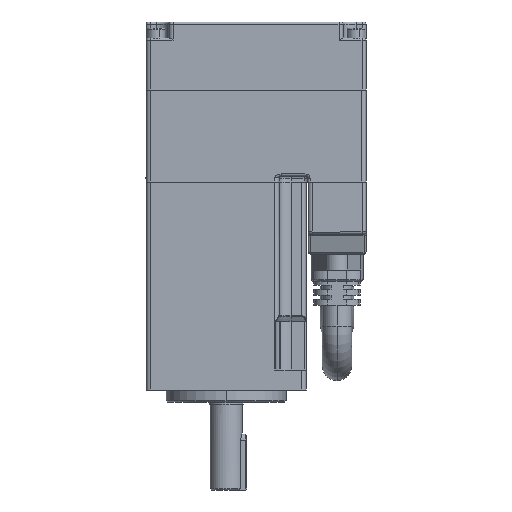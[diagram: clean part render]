
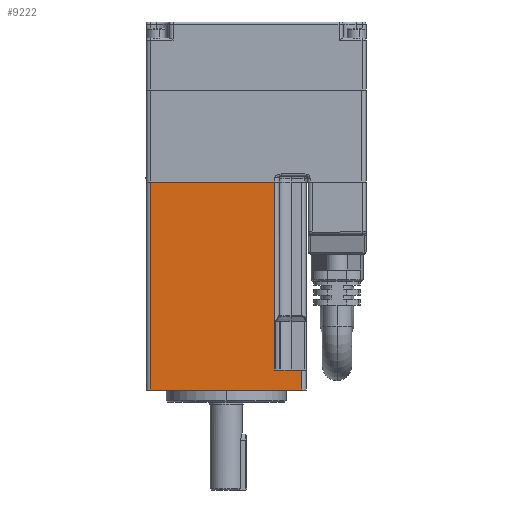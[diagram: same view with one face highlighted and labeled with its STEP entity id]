
A CAD part, left-side view. The second image highlights one B-rep face of the part: STEP entity #9222.
In plain terms, the highlighted planar face has unit normal (-1, 0, 0).
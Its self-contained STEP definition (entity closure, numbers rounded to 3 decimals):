
#7717=DIRECTION('',(0.,-1.,0.));
#7718=VECTOR('',#7717,37.8);
#7719=CARTESIAN_POINT('',(-20.,18.9,-5.));
#7720=LINE('',#7719,#7718);
#7721=DIRECTION('',(0.,-1.,0.));
#7722=VECTOR('',#7721,31.06);
#7723=CARTESIAN_POINT('',(-20.,18.9,47.));
#7724=LINE('',#7723,#7722);
#7749=DIRECTION('',(0.,-1.,0.));
#7750=VECTOR('',#7749,6.74);
#7751=CARTESIAN_POINT('',(-20.,-12.16,0.));
#7752=LINE('',#7751,#7750);
#7863=DIRECTION('',(0.,0.,-1.));
#7864=VECTOR('',#7863,12.034);
#7865=CARTESIAN_POINT('',(-20.,-12.16,12.034));
#7866=LINE('',#7865,#7864);
#8017=DIRECTION('',(0.,0.,-1.));
#8018=VECTOR('',#8017,34.966);
#8019=CARTESIAN_POINT('',(-20.,-12.16,47.));
#8020=LINE('',#8019,#8018);
#8066=DIRECTION('',(0.,0.,-1.));
#8067=VECTOR('',#8066,5.);
#8068=CARTESIAN_POINT('',(-20.,-18.9,0.));
#8069=LINE('',#8068,#8067);
#8137=DIRECTION('',(0.,0.,1.));
#8138=VECTOR('',#8137,52.);
#8139=CARTESIAN_POINT('',(-20.,18.9,-5.));
#8140=LINE('',#8139,#8138);
#8431=CARTESIAN_POINT('',(-20.,-12.16,47.));
#8433=VERTEX_POINT('',#8431);
#8465=CARTESIAN_POINT('',(-20.,18.9,-5.));
#8466=CARTESIAN_POINT('',(-20.,18.9,47.));
#8467=VERTEX_POINT('',#8465);
#8468=VERTEX_POINT('',#8466);
#8512=CARTESIAN_POINT('',(-20.,-18.9,-5.));
#8513=VERTEX_POINT('',#8512);
#8531=CARTESIAN_POINT('',(-20.,-12.16,12.034));
#8532=VERTEX_POINT('',#8531);
#8569=CARTESIAN_POINT('',(-20.,-12.16,0.));
#8570=CARTESIAN_POINT('',(-20.,-18.9,0.));
#8571=VERTEX_POINT('',#8569);
#8572=VERTEX_POINT('',#8570);
#9202=CARTESIAN_POINT('',(-20.,20.,47.));
#9203=DIRECTION('',(1.,0.,0.));
#9204=DIRECTION('',(0.,1.,0.));
#9205=AXIS2_PLACEMENT_3D('',#9202,#9203,#9204);
#9206=PLANE('',#9205);
#9208=ORIENTED_EDGE('',*,*,#9207,.T.);
#9210=ORIENTED_EDGE('',*,*,#9209,.T.);
#9211=ORIENTED_EDGE('',*,*,#9155,.F.);
#9213=ORIENTED_EDGE('',*,*,#9212,.T.);
#9215=ORIENTED_EDGE('',*,*,#9214,.T.);
#9217=ORIENTED_EDGE('',*,*,#9216,.T.);
#9219=ORIENTED_EDGE('',*,*,#9218,.T.);
#9220=EDGE_LOOP('',(#9208,#9210,#9211,#9213,#9215,#9217,#9219));
#9221=FACE_OUTER_BOUND('',#9220,.F.);
#9222=ADVANCED_FACE('',(#9221),#9206,.F.);
#9155=EDGE_CURVE('',#8467,#8513,#7720,.T.);
#9207=EDGE_CURVE('',#8571,#8572,#7752,.T.);
#9209=EDGE_CURVE('',#8572,#8513,#8069,.T.);
#9212=EDGE_CURVE('',#8467,#8468,#8140,.T.);
#9214=EDGE_CURVE('',#8468,#8433,#7724,.T.);
#9216=EDGE_CURVE('',#8433,#8532,#8020,.T.);
#9218=EDGE_CURVE('',#8532,#8571,#7866,.T.);
